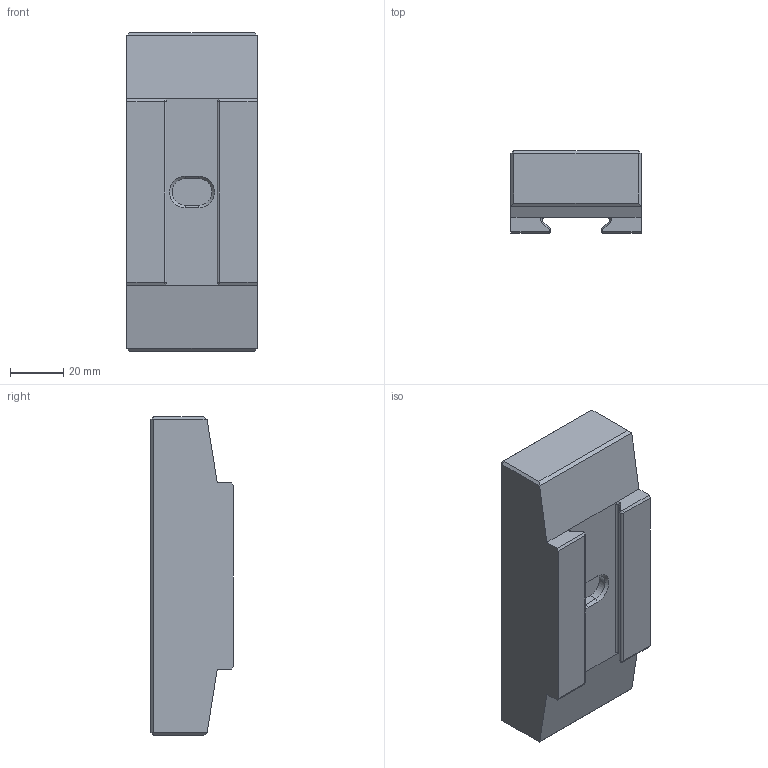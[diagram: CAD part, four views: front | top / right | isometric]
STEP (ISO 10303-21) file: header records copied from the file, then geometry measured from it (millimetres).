
FILE_DESCRIPTION (( 'STEP AP214' ), '1' );
FILE_NAME ('6921544081031.STEP', '2017-12-21T12:56:06', ( '' ), ( '' ), 'SwSTEP 2.0', 'SolidWorks 2016', '' );
FILE_SCHEMA (( 'AUTOMOTIVE_DESIGN' ));
Length unit declared in the file: millimetre
Products named in the file (1): 6921544081031
Bounding box: 49 x 31 x 120 mm (x, y, z)
Volume: 152570.5 mm3; surface area: 22034.4 mm2
Topology: 1 solids, 1 shells, 233 faces, 593 edges, 384 vertices
Faces by surface type: plane 129, bspline 81, cone 14, cylinder 9
Entity records: 11789 total; most frequent: CARTESIAN_POINT 6672, ORIENTED_EDGE 1186, DIRECTION 767, EDGE_CURVE 593, VECTOR 393, LINE 393, VERTEX_POINT 384, EDGE_LOOP 255
